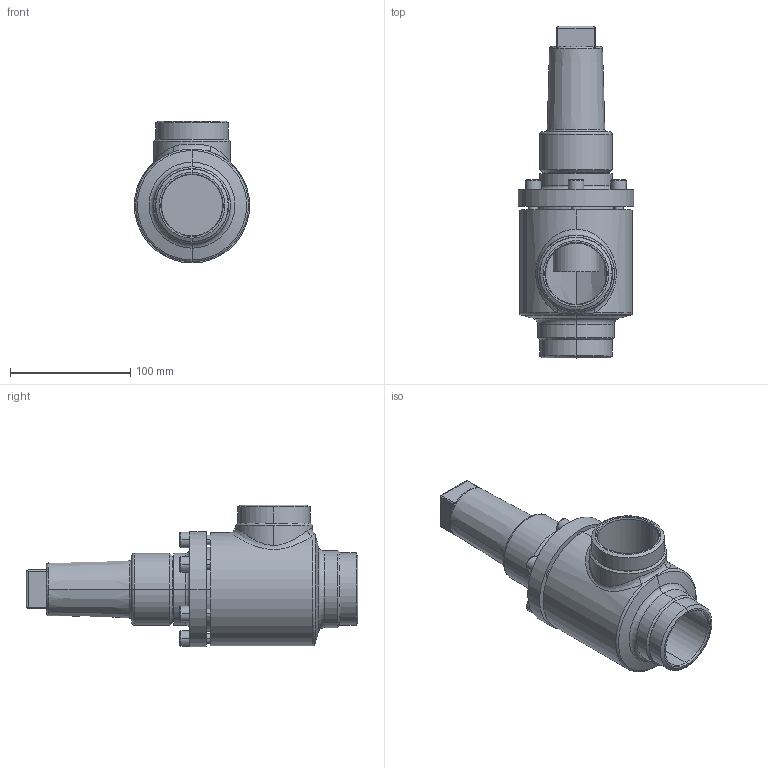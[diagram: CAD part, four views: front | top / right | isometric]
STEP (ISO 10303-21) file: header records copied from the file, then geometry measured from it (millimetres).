
FILE_DESCRIPTION (( 'STEP AP214' ), '1' );
FILE_NAME ('HRAB12400D15-DN050_R1_PS40.STEP', '2006-04-27T12:04:58', ( 'Herr Grams' ), ( 'AWP GmbH' ), 'SwSTEP 2.0', 'SolidWorks 2002296', '' );
FILE_SCHEMA (( 'AUTOMOTIVE_DESIGN' ));
Length unit declared in the file: millimetre
Products named in the file (6): HRAB12400D15-DN050_R1_PS40; AVB16300E15_Deck+Schr-DN40-50_Standard; Deckel16300E15-DN40-50_Standard; Zylinderschraube-DIN912_M 8x 25; Gehäuse16400-DN050_Standard; Kappe16402_DN040-65_Standard
Assembly tree (10 placements, depth 3):
  HRAB12400D15-DN050_R1_PS40
    Gehäuse16400-DN050_Standard
    Kappe16402_DN040-65_Standard
    AVB16300E15_Deck+Schr-DN40-50_Standard
      Zylinderschraube-DIN912_M 8x 25  x6
      Deckel16300E15-DN40-50_Standard
Bounding box: 96 x 276 x 118 mm (x, y, z)
Volume: 718717.5 mm3; surface area: 153513.1 mm2
Topology: 9 solids, 9 shells, 258 faces, 563 edges, 354 vertices
Faces by surface type: cylinder 96, plane 95, cone 38, torus 27, bspline 2
Entity records: 14956 total; most frequent: CARTESIAN_POINT 10508, DIRECTION 891, ORIENTED_EDGE 746, AXIS2_PLACEMENT_3D 378, EDGE_CURVE 373, VERTEX_POINT 234, EDGE_LOOP 203, CIRCLE 198
